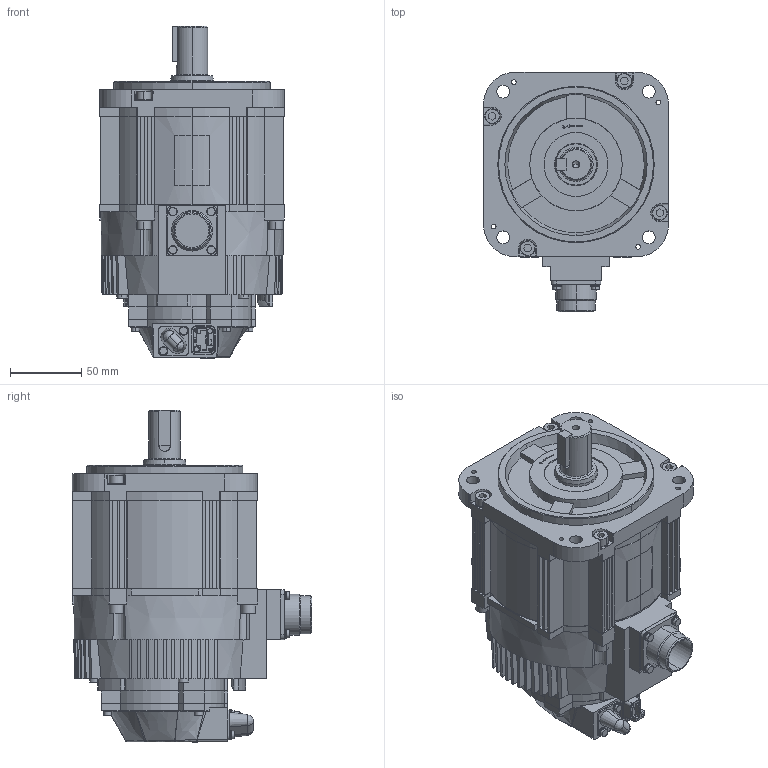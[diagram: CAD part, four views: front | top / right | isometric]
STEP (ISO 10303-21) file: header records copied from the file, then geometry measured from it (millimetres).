
FILE_DESCRIPTION (( 'STEP AP214' ), '1' );
FILE_NAME ('SGM7G-13APK-YR1.STEP', '2021-04-12T15:24:07', ( '' ), ( '' ), 'SwSTEP 2.0', 'SolidWorks 2019', '' );
FILE_SCHEMA (( 'AUTOMOTIVE_DESIGN' ));
Length unit declared in the file: millimetre
Products named in the file (1): SGM7G-13APK-YR1
Bounding box: 130 x 168.49 x 233.5 mm (x, y, z)
Volume: 2246595 mm3; surface area: 163731.1 mm2
Topology: 2 solids, 2 shells, 1114 faces, 2859 edges, 1833 vertices
Faces by surface type: plane 646, cylinder 289, cone 128, bspline 45, sphere 6
Entity records: 47225 total; most frequent: CARTESIAN_POINT 8322, ORIENTED_EDGE 5702, DIRECTION 5615, EDGE_CURVE 2851, AXIS2_PLACEMENT_3D 1966, VERTEX_POINT 1833, LINE 1683, VECTOR 1683
